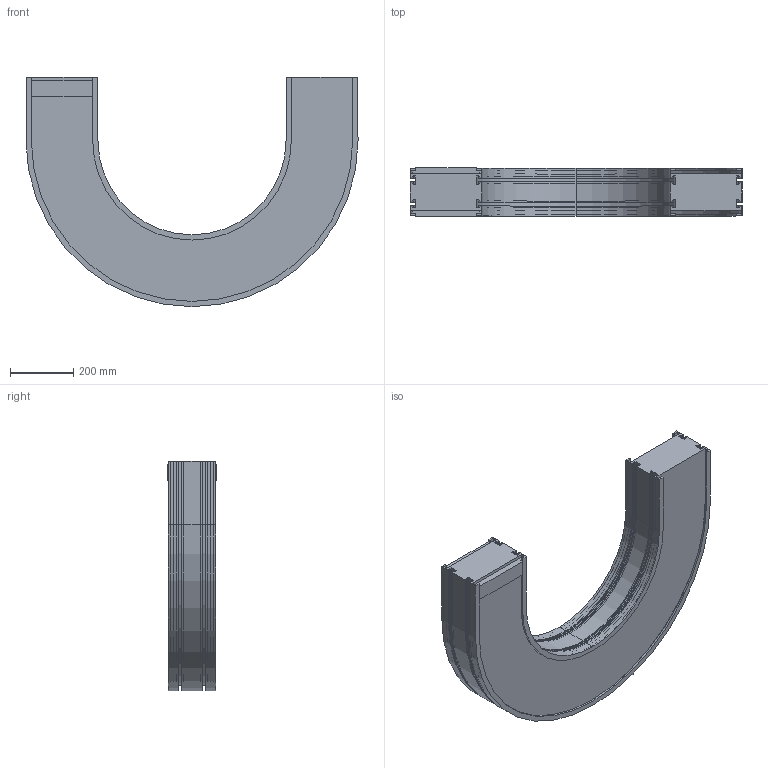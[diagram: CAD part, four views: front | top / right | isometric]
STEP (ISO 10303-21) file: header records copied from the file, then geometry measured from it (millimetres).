
FILE_DESCRIPTION (( 'STEP AP203' ), '1' );
FILE_NAME ('F2-750-C180.STEP', '2009-02-16T12:21:01', ( 'faber' ), ( '' ), 'SwSTEP 2.0', 'SolidWorks 2008', '' );
FILE_SCHEMA (( 'CONFIG_CONTROL_DESIGN' ));
Length unit declared in the file: millimetre
Products named in the file (3): Tapis_750; Courbe_   750; F2-750-C180
Assembly tree (3 placements, depth 2):
  F2-750-C180
    Tapis_750  x2
    Courbe_   750
Bounding box: 1047 x 152.88 x 723.5 mm (x, y, z)
Volume: 43029621.9 mm3; surface area: 2258952 mm2
Topology: 3 solids, 3 shells, 232 faces, 678 edges, 452 vertices
Faces by surface type: plane 148, cylinder 84
Entity records: 7743 total; most frequent: CARTESIAN_POINT 1318, ORIENTED_EDGE 1308, DIRECTION 1278, EDGE_CURVE 654, VECTOR 486, LINE 486, VERTEX_POINT 436, AXIS2_PLACEMENT_3D 396
